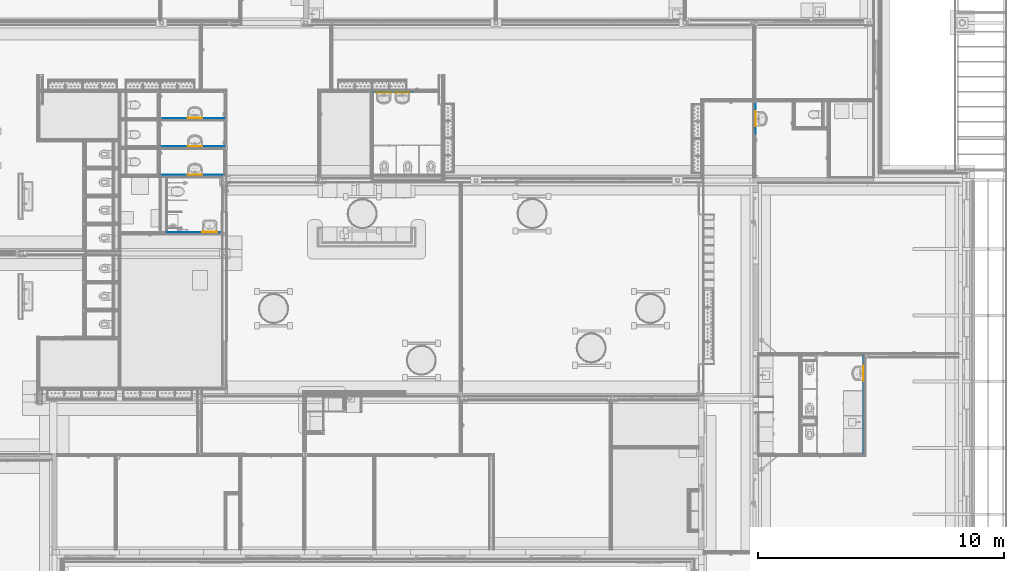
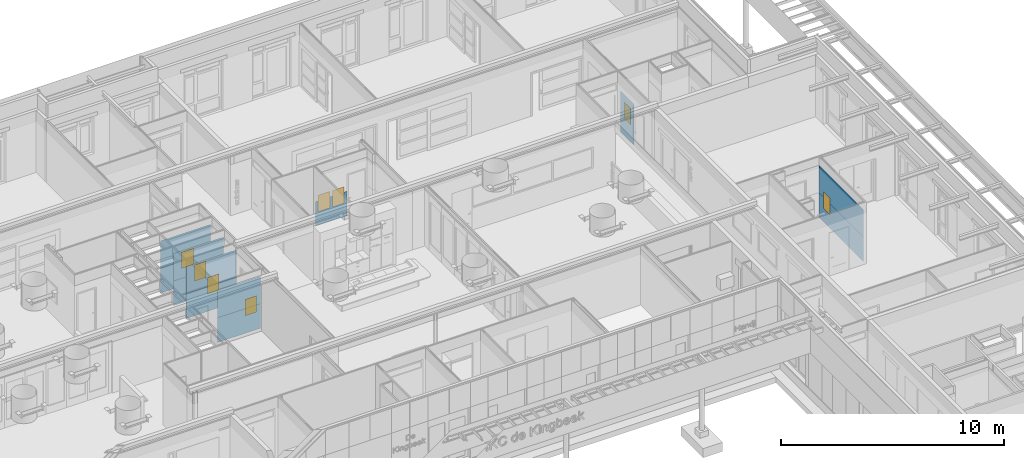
# One storey, part 12 of 788: 13 windows, 12 walls, 14 openings.
"""IFC2X3 building model written with IfcOpenShell, lengths in millimetres."""

from ifc_helpers import new_model, entity, si_unit, converted_unit, derived_unit, money_unit, direction, frame, origin_with_axes, place, context, subcontext, project, spatial, faceted_brep, source, transform, mapped, material, type_object, type_shapes, element, fill, save


model = new_model("IFC2X3")

# Units and contexts
model_context = context("Model", 3, precision=0.01, world=origin_with_axes(), true_north=direction((0.0, 1.0)))
plan_context = context("Plan", 3, precision=0.01, world=origin_with_axes(), true_north=direction((0.0, 1.0)))
body_context = subcontext(model_context, "Body", "Model", "MODEL_VIEW")
ifc_project = project(units=[si_unit("LENGTHUNIT", "METRE", prefix="MILLI"), si_unit("AREAUNIT", "SQUARE_METRE"), si_unit("VOLUMEUNIT", "CUBIC_METRE"), converted_unit("PLANEANGLEUNIT", "DEGREE", entity("IfcPlaneAngleMeasure", 0.0174532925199), si_unit("PLANEANGLEUNIT", "RADIAN"), dimensions=[0, 0, 0, 0, 0, 0, 0]), money_unit("EUR"), converted_unit("TIMEUNIT", "Year", entity("IfcTimeMeasure", 31556926.0), si_unit("TIMEUNIT", "SECOND"), dimensions=[0, 0, 1, 0, 0, 0, 0]), si_unit("MASSUNIT", "GRAM", prefix="KILO"), si_unit("THERMODYNAMICTEMPERATUREUNIT", "DEGREE_CELSIUS"), si_unit("LUMINOUSINTENSITYUNIT", "LUMEN"), si_unit("ENERGYUNIT", "JOULE", prefix="MEGA"), derived_unit("THERMALCONDUCTANCEUNIT", [(si_unit("POWERUNIT", "WATT"), 1), (si_unit("LENGTHUNIT", "METRE"), -1), (si_unit("THERMODYNAMICTEMPERATUREUNIT", "KELVIN"), -1)]), derived_unit("SPECIFICHEATCAPACITYUNIT", [(si_unit("ENERGYUNIT", "JOULE"), 1), (si_unit("MASSUNIT", "GRAM", prefix="KILO"), -1), (si_unit("THERMODYNAMICTEMPERATUREUNIT", "KELVIN"), -1)]), derived_unit("MASSDENSITYUNIT", [(si_unit("MASSUNIT", "GRAM", prefix="KILO"), 1), (si_unit("VOLUMEUNIT", "CUBIC_METRE"), -1)])], contexts=[model_context, plan_context])

# Site, building, storey
site_placement = place(None, origin_with_axes())
site = spatial("IfcSite", under=ifc_project, at=site_placement, Name="Site", CompositionType="ELEMENT")
building_placement = place(site_placement, origin_with_axes())
building = spatial("IfcBuilding", under=site, at=building_placement, Name="Naam gebouw", CompositionType="ELEMENT")
storey_placement = place(building_placement, origin_with_axes())
storey = spatial("IfcBuildingStorey", under=building, at=storey_placement, Name="Begane grond", CompositionType="ELEMENT", Elevation=0.0)

# Wall, opening, window
ifc_material = material(Name="AFW - Wandtegelwerk")
wall_type = type_object("IfcWallType", Name="AFW - Wandtegelwerk 5", PredefinedType="ELEMENTEDWALL")
wall_1_placement = place(storey_placement, frame((26073.9940854, 24112.989991, 100.0), z_axis=(0.0, 0.0, 1.0), x_axis=(1.0, 0.0, 0.0)))
wall_1 = element("IfcWall", 1, at=wall_1_placement, inside=storey, type_object=wall_type, material=ifc_material, Name="Wandtegelwerk", context=body_context, shape_type="Brep", body=[
    faceted_brep([(2593.03619242, -5.0, 1350.0), (2593.03619245, 0.0, 1350.0), (0.0, 0.0, 1350.0), (0.0, -5.0, 1350.0), (2593.03619242, -5.0, 0.0), (2593.03619245, 0.0, 0.0), (0.0, 0.0, 0.0), (0.0, -5.0, 0.0)], [[[0, 1, 2, 3]], [[1, 0, 4, 5]], [[1, 5, 6, 2]], [[7, 3, 2, 6]], [[4, 0, 3, 7]], [[5, 4, 7, 6]]]),
])
opening_1_placement = place(wall_1_placement, frame((1396.03619983, 0.0, 950.0), z_axis=(0.0, 0.0, 1.0), x_axis=(1.0, 0.0, 0.0)))
opening_1 = element("IfcOpeningElement", 2, at=opening_1_placement, cuts=wall_1, Name="nis tbv luifel", context=body_context, shape_type="Brep", body=[
    faceted_brep([(0.0, 1015.0, 0.0), (-10.0, 1005.0, 0.0), (-10.0, 1005.0, 10.0), (0.0, 1015.0, 10.0), (10.0, 1005.0, 0.0), (10.0, 1005.0, 10.0)], [[[0, 1, 2, 3]], [[0, 4, 1]], [[1, 4, 5, 2]], [[3, 2, 5]], [[4, 0, 3, 5]]]),
])
window_style = type_object("IfcWindowStyle", Name="R Uitstulping 25", ConstructionType="NOTDEFINED", OperationType="NOTDEFINED", ParameterTakesPrecedence=False, Sizeable=False)
shared_shape_1 = source(origin_with_axes(), body_context, "Body", "Brep", [
    faceted_brep([(-300.0, 0.0, 0.0), (300.0, 0.0, 0.0), (300.0, 0.0, 900.0), (-300.0, 0.0, 900.0), (-300.0, 5.0, 0.0), (300.0, 5.0, 0.0), (300.0, 5.0, 900.0), (-300.0, 5.0, 900.0)], [[[0, 1, 2, 3]], [[0, 4, 5, 1]], [[1, 5, 6, 2]], [[3, 2, 6, 7]], [[4, 0, 3, 7]], [[5, 4, 7, 6]]]),
])
window_1_placement = place(opening_1_placement, frame((-300.0, 0.0, 0.0), z_axis=(0.0, 0.0, 1.0), x_axis=(1.0, 0.0, 0.0)))
window_1 = element("IfcWindow", 3, at=window_1_placement, inside=storey, type_object=window_style, material=ifc_material, Name="nis tbv luifel", ObjectType="WINDOW", OverallHeight=900.0, OverallWidth=600.0, context=body_context, shape_type="MappedRepresentation", body=[
    mapped(shared_shape_1, transform((300.0, 0.0, 0.0))),
])
fill(opening_1, window_1)

wall_2_placement = place(storey_placement, frame((26073.9940854, 22962.989991, 100.0), z_axis=(0.0, 0.0, 1.0), x_axis=(1.0, 0.0, 0.0)))
wall_2 = element("IfcWall", 4, at=wall_2_placement, inside=storey, type_object=wall_type, material=ifc_material, Name="Wandtegelwerk", context=body_context, shape_type="Brep", body=[
    faceted_brep([(2593.03619249, -0.020416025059, 0.0), (2593.03619249, -0.020416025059, 1350.0), (2593.03619245, -5.0, 1350.0), (2593.03619245, -5.0, 0.0), (2588.05660851, -0.020416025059, 1350.0), (2588.05660851, -0.020416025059, 0.0), (2588.03619249, 0.0, 1350.0), (0.0, 0.0, 1350.0), (0.0, -5.0, 1350.0), (0.0, -5.0, 0.0), (0.0, 0.0, 0.0), (2588.03619249, 0.0, 0.0)], [[[0, 1, 2, 3]], [[4, 1, 0, 5]], [[4, 6, 7, 8, 2, 1]], [[9, 3, 2, 8]], [[5, 0, 3, 9, 10, 11]], [[6, 4, 5, 11]], [[6, 11, 10, 7]], [[10, 9, 8, 7]]]),
])
opening_2_placement = place(wall_2_placement, frame((1396.03619983, 0.0, 950.0), z_axis=(0.0, 0.0, 1.0), x_axis=(1.0, 0.0, 0.0)))
opening_2 = element("IfcOpeningElement", 5, at=opening_2_placement, cuts=wall_2, Name="nis tbv luifel", context=body_context, shape_type="Brep", body=[
    faceted_brep([(0.0, 1015.0, 0.0), (-10.0, 1005.0, 0.0), (-10.0, 1005.0, 10.0), (0.0, 1015.0, 10.0), (10.0, 1005.0, 0.0), (10.0, 1005.0, 10.0)], [[[0, 1, 2, 3]], [[0, 4, 1]], [[1, 4, 5, 2]], [[3, 2, 5]], [[4, 0, 3, 5]]]),
])
window_2_placement = place(opening_2_placement, frame((-300.0, 0.0, 0.0), z_axis=(0.0, 0.0, 1.0), x_axis=(1.0, 0.0, 0.0)))
window_2 = element("IfcWindow", 6, at=window_2_placement, inside=storey, type_object=window_style, material=ifc_material, Name="nis tbv luifel", ObjectType="WINDOW", OverallHeight=900.0, OverallWidth=600.0, context=body_context, shape_type="MappedRepresentation", body=[
    mapped(shared_shape_1, transform((300.0, 0.0, 0.0))),
])
fill(opening_2, window_2)

wall_3_placement = place(storey_placement, frame((26073.9940854, 21812.989991, 100.0), z_axis=(0.0, 0.0, 1.0), x_axis=(1.0, 0.0, 0.0)))
wall_3 = element("IfcWall", 7, at=wall_3_placement, inside=storey, type_object=wall_type, material=ifc_material, Name="Wandtegelwerk", context=body_context, shape_type="Brep", body=[
    faceted_brep([(2593.03619245, -5.0, 1350.0), (2593.03619249, 0.0, 1350.0), (0.0, 0.0, 1350.0), (0.0, -5.0, 1350.0), (2593.03619245, -5.0, 0.0), (2593.03619249, 0.0, 0.0), (0.0, 0.0, 0.0), (0.0, -5.0, 0.0)], [[[0, 1, 2, 3]], [[1, 0, 4, 5]], [[1, 5, 6, 2]], [[7, 3, 2, 6]], [[4, 0, 3, 7]], [[5, 4, 7, 6]]]),
])
opening_3_placement = place(wall_3_placement, frame((1396.03619983, 0.0, 950.0), z_axis=(0.0, 0.0, 1.0), x_axis=(1.0, 0.0, 0.0)))
opening_3 = element("IfcOpeningElement", 8, at=opening_3_placement, cuts=wall_3, Name="nis tbv luifel", context=body_context, shape_type="Brep", body=[
    faceted_brep([(0.0, 1015.0, 0.0), (-10.0, 1005.0, 0.0), (-10.0, 1005.0, 10.0), (0.0, 1015.0, 10.0), (10.0, 1005.0, 0.0), (10.0, 1005.0, 10.0)], [[[0, 1, 2, 3]], [[0, 4, 1]], [[1, 4, 5, 2]], [[3, 2, 5]], [[4, 0, 3, 5]]]),
])
window_3_placement = place(opening_3_placement, frame((-300.0, 0.0, 0.0), z_axis=(0.0, 0.0, 1.0), x_axis=(1.0, 0.0, 0.0)))
window_3 = element("IfcWindow", 9, at=window_3_placement, inside=storey, type_object=window_style, material=ifc_material, Name="nis tbv luifel", ObjectType="WINDOW", OverallHeight=900.0, OverallWidth=600.0, context=body_context, shape_type="MappedRepresentation", body=[
    mapped(shared_shape_1, transform((300.0, 0.0, 0.0))),
])
fill(opening_3, window_3)

wall_4_placement = place(storey_placement, frame((26338.0302852, 19482.989991, 100.0), z_axis=(0.0, 0.0, 1.0), x_axis=(1.0, 0.0, 0.0)))
wall_4 = element("IfcWall", 10, at=wall_4_placement, inside=storey, type_object=wall_type, material=ifc_material, Name="Wandtegelwerk", context=body_context, shape_type="Brep", body=[
    faceted_brep([(2228.99998397, -5.0, 1350.0), (2228.999984, 0.0, 1350.0), (0.0, 0.0, 1350.0), (0.0, -5.0, 1350.0), (2228.99998397, -5.0, 0.0), (2228.999984, 0.0, 0.0), (0.0, 0.0, 0.0), (0.0, -5.0, 0.0)], [[[0, 1, 2, 3]], [[1, 0, 4, 5]], [[1, 5, 6, 2]], [[7, 3, 2, 6]], [[4, 0, 3, 7]], [[5, 4, 7, 6]]]),
])
opening_4_placement = place(wall_4_placement, frame((1732.0, 0.0, 950.0), z_axis=(0.0, 0.0, 1.0), x_axis=(1.0, 0.0, 0.0)))
opening_4 = element("IfcOpeningElement", 11, at=opening_4_placement, cuts=wall_4, Name="nis tbv luifel", context=body_context, shape_type="Brep", body=[
    faceted_brep([(0.0, 1015.0, 10.0), (10.0, 1005.0, 10.0), (10.0, 1005.0, 0.0), (0.0, 1015.0, 0.0), (-10.0, 1005.0, 10.0), (-10.0, 1005.0, 0.0)], [[[0, 1, 2, 3]], [[0, 4, 1]], [[1, 4, 5, 2]], [[3, 2, 5]], [[4, 0, 3, 5]]]),
])
shared_shape_2 = source(origin_with_axes(), body_context, "Body", "Brep", [
    faceted_brep([(300.0, 0.0, 0.0), (300.0, 0.0, 900.0), (-300.0, 0.0, 900.0), (-300.0, 0.0, 0.0), (300.0, 5.0, 0.0), (300.0, 5.0, 900.0), (-300.0, 5.0, 900.0), (-300.0, 5.0, 0.0)], [[[0, 1, 2, 3]], [[4, 5, 1, 0]], [[1, 5, 6, 2]], [[3, 2, 6, 7]], [[0, 3, 7, 4]], [[7, 6, 5, 4]]]),
])
type_shapes(window_style, [shared_shape_1, shared_shape_2])
window_4_placement = place(opening_4_placement, frame((-300.0, 0.0, 0.0), z_axis=(0.0, 0.0, 1.0), x_axis=(1.0, 0.0, 0.0)))
window_4 = element("IfcWindow", 12, at=window_4_placement, inside=storey, type_object=window_style, material=ifc_material, Name="nis tbv luifel", ObjectType="WINDOW", OverallHeight=900.0, OverallWidth=600.0, context=body_context, shape_type="MappedRepresentation", body=[
    mapped(shared_shape_2, transform((300.0, 0.0, 0.0))),
])
fill(opening_4, window_4)

wall_5_placement = place(storey_placement, frame((50242.0363299, 24679.9913222, 100.0), z_axis=(0.0, 0.0, 1.0), x_axis=(0.0, -1.0, 0.0)))
wall_5 = element("IfcWall", 13, at=wall_5_placement, inside=storey, type_object=wall_type, material=ifc_material, Name="Wandtegelwerk", context=body_context, shape_type="Brep", body=[
    faceted_brep([(0.0, -5.0, 2250.0), (1200.0, -5.0, 2250.0), (1200.0, 0.0, 2250.0), (0.0, 0.0, 2250.0), (0.0, -5.0, 0.0), (1200.0, -5.0, 0.0), (1200.0, 0.0, 0.0), (0.0, 0.0, 0.0)], [[[0, 1, 2, 3]], [[4, 5, 1, 0]], [[2, 1, 5, 6]], [[3, 2, 6, 7]], [[4, 0, 3, 7]], [[7, 6, 5, 4]]]),
])
opening_5_placement = place(wall_5_placement, frame((600.0, 0.0, 950.0), z_axis=(0.0, 0.0, 1.0), x_axis=(1.0, 0.0, 0.0)))
opening_5 = element("IfcOpeningElement", 14, at=opening_5_placement, cuts=wall_5, Name="nis tbv luifel", context=body_context, shape_type="Brep", body=[
    faceted_brep([(0.0, 1015.0, 0.0), (-10.0, 1005.0, 0.0), (-10.0, 1005.0, 10.0), (0.0, 1015.0, 10.0), (10.0, 1005.0, 0.0), (10.0, 1005.0, 10.0)], [[[0, 1, 2, 3]], [[0, 4, 1]], [[1, 4, 5, 2]], [[3, 2, 5]], [[4, 0, 3, 5]]]),
])
window_5_placement = place(opening_5_placement, frame((-300.0, 0.0, 0.0), z_axis=(0.0, 0.0, 1.0), x_axis=(1.0, 0.0, 0.0)))
window_5 = element("IfcWindow", 15, at=window_5_placement, inside=storey, type_object=window_style, material=ifc_material, Name="nis tbv luifel", ObjectType="WINDOW", OverallHeight=900.0, OverallWidth=600.0, context=body_context, shape_type="MappedRepresentation", body=[
    mapped(shared_shape_1, transform((300.0, 0.0, 0.0))),
])
fill(opening_5, window_5)

wall_6_placement = place(storey_placement, frame((54609.9964617, 14462.002518, 100.0), z_axis=(0.0, 0.0, 1.0), x_axis=(0.0, -1.0, 0.0)))
wall_6 = element("IfcWall", 16, at=wall_6_placement, inside=storey, type_object=wall_type, material=ifc_material, Name="Wandtegelwerk", context=body_context, shape_type="Brep", body=[
    faceted_brep([(3989.00683426, 5.0, 0.0), (3989.00683426, 0.0, 0.0), (-5.0, 0.0, 0.0), (-5.0, 5.0, 0.0), (3989.00683426, 5.0, 1350.0), (3989.00683426, 0.0, 1350.0), (-5.0, 0.0, 1350.0), (-5.0, 5.0, 1350.0)], [[[0, 1, 2, 3]], [[1, 0, 4, 5]], [[1, 5, 6, 2]], [[7, 3, 2, 6]], [[4, 0, 3, 7]], [[5, 4, 7, 6]]]),
])
opening_6_placement = place(wall_6_placement, frame((716.999910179, 0.0, 750.0), z_axis=(0.0, 0.0, 1.0), x_axis=(1.0, 0.0, 0.0)))
opening_6 = element("IfcOpeningElement", 17, at=opening_6_placement, cuts=wall_6, Name="nis tbv luifel", context=body_context, shape_type="Brep", body=[
    faceted_brep([(0.0, -1015.0, 0.0), (10.0, -1005.0, 0.0), (10.0, -1005.0, 10.0), (0.0, -1015.0, 10.0), (-10.0, -1005.0, 0.0), (-10.0, -1005.0, 10.0)], [[[0, 1, 2, 3]], [[0, 4, 1]], [[1, 4, 5, 2]], [[3, 2, 5]], [[4, 0, 3, 5]]]),
])
window_6_placement = place(opening_6_placement, frame((300.0, 0.0, 0.0), z_axis=(0.0, 0.0, 1.0), x_axis=(-1.0, 0.0, 0.0)))
window_6 = element("IfcWindow", 18, at=window_6_placement, inside=storey, type_object=window_style, material=ifc_material, Name="nis tbv luifel", ObjectType="WINDOW", OverallHeight=900.0, OverallWidth=600.0, context=body_context, shape_type="MappedRepresentation", body=[
    mapped(shared_shape_1, transform((300.0, 0.0, 0.0))),
])
fill(opening_6, window_6)

# Wall, openings, windows
wall_7_placement = place(storey_placement, frame((37362.0242894, 25151.9941474, 100.0), z_axis=(0.0, 0.0, 1.0), x_axis=(-1.0, -6.4547922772e-10, 0.0)))
wall_7 = element("IfcWall", 19, at=wall_7_placement, inside=storey, type_object=wall_type, material=ifc_material, Name="Wandtegelwerk", context=body_context, shape_type="Brep", body=[
    faceted_brep([(1026.00000353, -6.62261356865e-07, 1350.0), (1026.00000353, -5.00000066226, 1350.0), (2649.0171845, -5.00000170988, 1350.0), (2649.01718451, -1.70988556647e-06, 1350.0), (1026.00000353, -5.00000066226, 0.0), (1026.00000353, -6.62261356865e-07, 0.0), (2649.0171845, -5.00000170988, 0.0), (2649.01718451, -1.70988556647e-06, 0.0)], [[[0, 1, 2, 3]], [[4, 1, 0, 5]], [[1, 4, 6, 2]], [[2, 6, 7, 3]], [[5, 0, 3, 7]], [[4, 5, 7, 6]]]),
])
opening_7_placement = place(wall_7_placement, frame((2224.50000353, 0.0, 750.0), z_axis=(0.0, 0.0, 1.0), x_axis=(1.0, 0.0, 0.0)))
opening_7 = element("IfcOpeningElement", 20, at=opening_7_placement, cuts=wall_7, Name="nis tbv luifel", context=body_context, shape_type="Brep", body=[
    faceted_brep([(6.58387403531e-07, 1014.99999856, 10.0), (10.0000006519, 1004.99999856, 10.0), (10.0000006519, 1004.99999856, 0.0), (6.58387403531e-07, 1014.99999856, 0.0), (-9.99999934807, 1004.99999857, 10.0), (-9.99999934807, 1004.99999857, 0.0)], [[[0, 1, 2, 3]], [[0, 4, 1]], [[1, 4, 5, 2]], [[3, 2, 5]], [[4, 0, 3, 5]]]),
])
opening_8_placement = place(wall_7_placement, frame((1474.50000353, 0.0, 750.0), z_axis=(0.0, 0.0, 1.0), x_axis=(1.0, 0.0, 0.0)))
opening_8 = element("IfcOpeningElement", 21, at=opening_8_placement, cuts=wall_7, Name="nis tbv luifel", context=body_context, shape_type="Brep", body=[
    faceted_brep([(6.58387403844e-07, 1014.99999905, 10.0), (10.0000006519, 1004.99999904, 10.0), (10.0000006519, 1004.99999904, 0.0), (6.58387403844e-07, 1014.99999905, 0.0), (-9.99999934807, 1004.99999905, 10.0), (-9.99999934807, 1004.99999905, 0.0)], [[[0, 1, 2, 3]], [[0, 4, 1]], [[1, 4, 5, 2]], [[3, 2, 5]], [[4, 0, 3, 5]]]),
])
opening_9_placement = place(wall_7_placement, frame((513.000001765, 0.0, -100.0), z_axis=(0.0, 0.0, 1.0), x_axis=(1.0, 0.0, 0.0)))
element("IfcOpeningElement", 22, at=opening_9_placement, cuts=wall_7, Name="Merk-x", context=body_context, shape_type="Brep", body=[
    faceted_brep([(513.000001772, 4.99999933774, 0.0), (513.000001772, 4.99999933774, 2377.0), (513.000001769, -6.62261523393e-07, 2377.0), (513.000001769, -6.62261523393e-07, 0.0), (-513.000001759, 5.0, 0.0), (-513.000001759, 5.0, 2377.0), (-513.000001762, 0.0, 2377.0), (-513.000001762, 0.0, 0.0)], [[[0, 1, 2, 3]], [[0, 4, 5, 1]], [[1, 5, 6, 2]], [[3, 2, 6, 7]], [[4, 0, 3, 7]], [[5, 4, 7, 6]]]),
    faceted_brep([(513.000001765, -5.00000066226, 2377.0), (513.000001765, -5.00000066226, 0.0), (513.000001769, -6.62261523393e-07, 0.0), (513.000001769, -6.62261523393e-07, 2377.0), (-513.000001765, -5.0, 2377.0), (-513.000001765, -5.0, 0.0), (-513.000001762, 0.0, 0.0), (-513.000001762, 0.0, 2377.0)], [[[0, 1, 2, 3]], [[0, 4, 5, 1]], [[1, 5, 6, 2]], [[3, 2, 6, 7]], [[4, 0, 3, 7]], [[5, 4, 7, 6]]]),
])
window_7_placement = place(opening_7_placement, frame((-300.0, 0.0, 0.0), z_axis=(0.0, 0.0, 1.0), x_axis=(1.0, 0.0, 0.0)))
window_7 = element("IfcWindow", 23, at=window_7_placement, inside=storey, type_object=window_style, material=ifc_material, Name="nis tbv luifel", ObjectType="WINDOW", OverallHeight=900.0, OverallWidth=600.0, context=body_context, shape_type="MappedRepresentation", body=[
    mapped(shared_shape_2, transform((300.000000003, -1.43586831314e-06, 0.0))),
])
fill(opening_7, window_7)
window_8_placement = place(opening_8_placement, frame((-300.0, 0.0, 0.0), z_axis=(0.0, 0.0, 1.0), x_axis=(1.0, 0.0, 0.0)))
window_8 = element("IfcWindow", 24, at=window_8_placement, inside=storey, type_object=window_style, material=ifc_material, Name="nis tbv luifel", ObjectType="WINDOW", OverallHeight=900.0, OverallWidth=600.0, context=body_context, shape_type="MappedRepresentation", body=[
    mapped(shared_shape_2, transform((300.000000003, -9.51757783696e-07, 0.0))),
])
fill(opening_8, window_8)

# Wall, opening, window
wall_8_placement = place(storey_placement, frame((26073.9940854, 24112.989991, 1450.0), z_axis=(0.0, 0.0, 1.0), x_axis=(1.0, 0.0, 0.0)))
wall_8 = element("IfcWall", 25, at=wall_8_placement, inside=storey, type_object=wall_type, material=ifc_material, Name="Wandtegelwerk", context=body_context, shape_type="Brep", body=[
    faceted_brep([(2593.03619242, -5.0, 1500.0), (2593.03619245, 0.0, 1500.0), (0.0, 0.0, 1500.0), (0.0, -5.0, 1500.0), (2593.03619242, -5.0, 0.0), (2593.03619245, 0.0, 0.0), (0.0, 0.0, 0.0), (0.0, -5.0, 0.0)], [[[0, 1, 2, 3]], [[1, 0, 4, 5]], [[1, 5, 6, 2]], [[7, 3, 2, 6]], [[4, 0, 3, 7]], [[5, 4, 7, 6]]]),
])
opening_10_placement = place(wall_8_placement, frame((1396.03619983, 0.0, -400.0), z_axis=(0.0, 0.0, 1.0), x_axis=(1.0, 0.0, 0.0)))
opening_10 = element("IfcOpeningElement", 26, at=opening_10_placement, cuts=wall_8, Name="nis tbv luifel", context=body_context, shape_type="Brep", body=[
    faceted_brep([(0.0, 1015.0, 0.0), (-10.0, 1005.0, 0.0), (-10.0, 1005.0, 10.0), (0.0, 1015.0, 10.0), (10.0, 1005.0, 0.0), (10.0, 1005.0, 10.0)], [[[0, 1, 2, 3]], [[0, 4, 1]], [[1, 4, 5, 2]], [[3, 2, 5]], [[4, 0, 3, 5]]]),
])
window_9_placement = place(opening_10_placement, frame((-300.0, 0.0, 0.0), z_axis=(0.0, 0.0, 1.0), x_axis=(1.0, 0.0, 0.0)))
window_9 = element("IfcWindow", 27, at=window_9_placement, inside=storey, type_object=window_style, material=ifc_material, Name="nis tbv luifel", ObjectType="WINDOW", OverallHeight=900.0, OverallWidth=600.0, context=body_context, shape_type="MappedRepresentation", body=[
    mapped(shared_shape_1, transform((300.0, 0.0, 0.0))),
])
fill(opening_10, window_9)

wall_9_placement = place(storey_placement, frame((26073.9940854, 22962.989991, 1450.0), z_axis=(0.0, 0.0, 1.0), x_axis=(1.0, 0.0, 0.0)))
wall_9 = element("IfcWall", 28, at=wall_9_placement, inside=storey, type_object=wall_type, material=ifc_material, Name="Wandtegelwerk", context=body_context, shape_type="Brep", body=[
    faceted_brep([(2593.03619249, -0.020416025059, 0.0), (2593.03619249, -0.020416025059, 927.0), (2593.03619249, 0.0, 927.0), (2593.03619249, 0.0, 1500.0), (2593.03619245, -5.0, 1500.0), (2593.03619245, -5.0, 0.0), (2588.05660851, -0.020416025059, 0.0), (2588.05660851, -0.020416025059, 927.0), (2588.03619249, 0.0, 927.0), (2588.03619249, 0.0, 0.0), (0.0, 0.0, 0.0), (0.0, 0.0, 1500.0), (0.0, -5.0, 1500.0), (0.0, -5.0, 0.0)], [[[0, 1, 2, 3, 4, 5]], [[1, 0, 6, 7]], [[8, 2, 1, 7]], [[8, 9, 10, 11, 3, 2]], [[12, 4, 3, 11]], [[13, 5, 4, 12]], [[6, 0, 5, 13, 10, 9]], [[6, 9, 8, 7]], [[10, 13, 12, 11]]]),
])
opening_11_placement = place(wall_9_placement, frame((1396.03619983, 0.0, -400.0), z_axis=(0.0, 0.0, 1.0), x_axis=(1.0, 0.0, 0.0)))
opening_11 = element("IfcOpeningElement", 29, at=opening_11_placement, cuts=wall_9, Name="nis tbv luifel", context=body_context, shape_type="Brep", body=[
    faceted_brep([(0.0, 1015.0, 0.0), (-10.0, 1005.0, 0.0), (-10.0, 1005.0, 10.0), (0.0, 1015.0, 10.0), (10.0, 1005.0, 0.0), (10.0, 1005.0, 10.0)], [[[0, 1, 2, 3]], [[0, 4, 1]], [[1, 4, 5, 2]], [[3, 2, 5]], [[4, 0, 3, 5]]]),
])
window_10_placement = place(opening_11_placement, frame((-300.0, 0.0, 0.0), z_axis=(0.0, 0.0, 1.0), x_axis=(1.0, 0.0, 0.0)))
window_10 = element("IfcWindow", 30, at=window_10_placement, inside=storey, type_object=window_style, material=ifc_material, Name="nis tbv luifel", ObjectType="WINDOW", OverallHeight=900.0, OverallWidth=600.0, context=body_context, shape_type="MappedRepresentation", body=[
    mapped(shared_shape_1, transform((300.0, 0.0, 0.0))),
])
fill(opening_11, window_10)

wall_10_placement = place(storey_placement, frame((26073.9940854, 21812.989991, 1450.0), z_axis=(0.0, 0.0, 1.0), x_axis=(1.0, 0.0, 0.0)))
wall_10 = element("IfcWall", 31, at=wall_10_placement, inside=storey, type_object=wall_type, material=ifc_material, Name="Wandtegelwerk", context=body_context, shape_type="Brep", body=[
    faceted_brep([(2593.03619245, -5.0, 1500.0), (2593.03619249, 0.0, 1500.0), (0.0, 0.0, 1500.0), (0.0, -5.0, 1500.0), (2593.03619245, -5.0, 0.0), (2593.03619249, 0.0, 0.0), (0.0, 0.0, 0.0), (0.0, -5.0, 0.0)], [[[0, 1, 2, 3]], [[1, 0, 4, 5]], [[1, 5, 6, 2]], [[7, 3, 2, 6]], [[4, 0, 3, 7]], [[5, 4, 7, 6]]]),
])
opening_12_placement = place(wall_10_placement, frame((1396.03619983, 0.0, -400.0), z_axis=(0.0, 0.0, 1.0), x_axis=(1.0, 0.0, 0.0)))
opening_12 = element("IfcOpeningElement", 32, at=opening_12_placement, cuts=wall_10, Name="nis tbv luifel", context=body_context, shape_type="Brep", body=[
    faceted_brep([(0.0, 1015.0, 0.0), (-10.0, 1005.0, 0.0), (-10.0, 1005.0, 10.0), (0.0, 1015.0, 10.0), (10.0, 1005.0, 0.0), (10.0, 1005.0, 10.0)], [[[0, 1, 2, 3]], [[0, 4, 1]], [[1, 4, 5, 2]], [[3, 2, 5]], [[4, 0, 3, 5]]]),
])
window_11_placement = place(opening_12_placement, frame((-300.0, 0.0, 0.0), z_axis=(0.0, 0.0, 1.0), x_axis=(1.0, 0.0, 0.0)))
window_11 = element("IfcWindow", 33, at=window_11_placement, inside=storey, type_object=window_style, material=ifc_material, Name="nis tbv luifel", ObjectType="WINDOW", OverallHeight=900.0, OverallWidth=600.0, context=body_context, shape_type="MappedRepresentation", body=[
    mapped(shared_shape_1, transform((300.0, 0.0, 0.0))),
])
fill(opening_12, window_11)

wall_11_placement = place(storey_placement, frame((26338.0302852, 19482.989991, 1450.0), z_axis=(0.0, 0.0, 1.0), x_axis=(1.0, 0.0, 0.0)))
wall_11 = element("IfcWall", 34, at=wall_11_placement, inside=storey, type_object=wall_type, material=ifc_material, Name="Wandtegelwerk", context=body_context, shape_type="Brep", body=[
    faceted_brep([(2228.99998397, -5.0, 1500.0), (2228.999984, 0.0, 1500.0), (0.0, 0.0, 1500.0), (0.0, -5.0, 1500.0), (2228.99998397, -5.0, 0.0), (2228.999984, 0.0, 0.0), (0.0, 0.0, 0.0), (0.0, -5.0, 0.0)], [[[0, 1, 2, 3]], [[1, 0, 4, 5]], [[1, 5, 6, 2]], [[7, 3, 2, 6]], [[4, 0, 3, 7]], [[5, 4, 7, 6]]]),
])
opening_13_placement = place(wall_11_placement, frame((1732.0, 0.0, -400.0), z_axis=(0.0, 0.0, 1.0), x_axis=(1.0, 0.0, 0.0)))
opening_13 = element("IfcOpeningElement", 35, at=opening_13_placement, cuts=wall_11, Name="nis tbv luifel", context=body_context, shape_type="Brep", body=[
    faceted_brep([(0.0, 1015.0, 10.0), (10.0, 1005.0, 10.0), (10.0, 1005.0, 0.0), (0.0, 1015.0, 0.0), (-10.0, 1005.0, 10.0), (-10.0, 1005.0, 0.0)], [[[0, 1, 2, 3]], [[0, 4, 1]], [[1, 4, 5, 2]], [[3, 2, 5]], [[4, 0, 3, 5]]]),
])
window_12_placement = place(opening_13_placement, frame((-300.0, 0.0, 0.0), z_axis=(0.0, 0.0, 1.0), x_axis=(1.0, 0.0, 0.0)))
window_12 = element("IfcWindow", 36, at=window_12_placement, inside=storey, type_object=window_style, material=ifc_material, Name="nis tbv luifel", ObjectType="WINDOW", OverallHeight=900.0, OverallWidth=600.0, context=body_context, shape_type="MappedRepresentation", body=[
    mapped(shared_shape_2, transform((300.0, 0.0, 0.0))),
])
fill(opening_13, window_12)

wall_12_placement = place(storey_placement, frame((54609.9964617, 14462.002518, 1450.0), z_axis=(0.0, 0.0, 1.0), x_axis=(0.0, -1.0, 0.0)))
wall_12 = element("IfcWall", 37, at=wall_12_placement, inside=storey, type_object=wall_type, material=ifc_material, Name="Wandtegelwerk", context=body_context, shape_type="Brep", body=[
    faceted_brep([(3989.00683426, 5.0, 0.0), (3989.00683426, 0.0, 0.0), (-5.0, 0.0, 0.0), (-5.0, 5.0, 0.0), (3989.00683426, 5.0, 1500.0), (3989.00683426, 0.0, 1500.0), (-5.0, 0.0, 1500.0), (-5.0, 5.0, 1500.0)], [[[0, 1, 2, 3]], [[1, 0, 4, 5]], [[1, 5, 6, 2]], [[7, 3, 2, 6]], [[4, 0, 3, 7]], [[5, 4, 7, 6]]]),
])
opening_14_placement = place(wall_12_placement, frame((717.006834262, 0.0, -600.0), z_axis=(0.0, 0.0, 1.0), x_axis=(1.0, 0.0, 0.0)))
opening_14 = element("IfcOpeningElement", 38, at=opening_14_placement, cuts=wall_12, Name="nis tbv luifel", context=body_context, shape_type="Brep", body=[
    faceted_brep([(0.0, -1015.0, 0.0), (10.0, -1005.0, 0.0), (10.0, -1005.0, 10.0), (0.0, -1015.0, 10.0), (-10.0, -1005.0, 0.0), (-10.0, -1005.0, 10.0)], [[[0, 1, 2, 3]], [[0, 4, 1]], [[1, 4, 5, 2]], [[3, 2, 5]], [[4, 0, 3, 5]]]),
])
window_13_placement = place(opening_14_placement, frame((300.0, 0.0, 0.0), z_axis=(0.0, 0.0, 1.0), x_axis=(-1.0, 0.0, 0.0)))
window_13 = element("IfcWindow", 39, at=window_13_placement, inside=storey, type_object=window_style, material=ifc_material, Name="nis tbv luifel", ObjectType="WINDOW", OverallHeight=900.0, OverallWidth=600.0, context=body_context, shape_type="MappedRepresentation", body=[
    mapped(shared_shape_1, transform((300.0, 0.0, 0.0))),
])
fill(opening_14, window_13)

save(model, "model.ifc")
